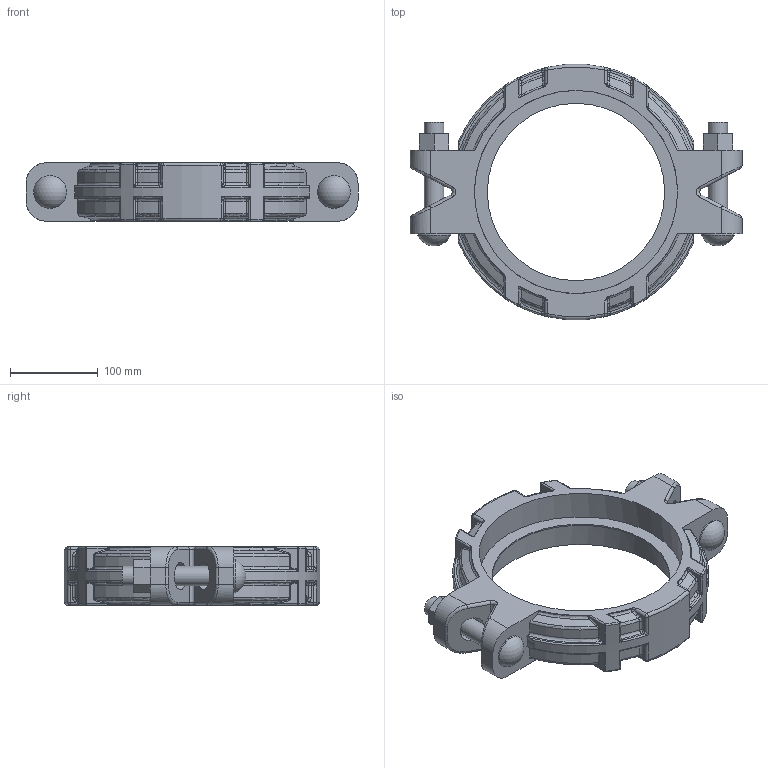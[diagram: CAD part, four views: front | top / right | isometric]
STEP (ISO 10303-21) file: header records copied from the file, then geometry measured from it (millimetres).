
FILE_DESCRIPTION(/* description */ ('VIC COUPLING FLEXIBLE STYLE XL77','CAx-IF Rec.Pracs.---Representation and Presentation of Product Manufacturing Information (PMI)---4.0---2014-10-13'),/* implementation_level */ '2;1');
FILE_NAME(/* name */ 'C:\Users\kkamble\AppData\Roaming\Autodesk\ApplicationPlugins\Back Up\Victaulic_IPS-XL_Coupling Flexible Transition_Style XL77 (XLGxOGS)\Victaulic_IPS-XL_Coupling Flexible Transition_Style XL77 (XLGxOGS)_8 (200).stp',/* time_stamp */ '2020-08-05T13:48:38+05:00',/* author */ ('jheald'),/* organization */ ('Victaulic'),/* preprocessor_version */ 'ST-DEVELOPER v17.2',/* originating_system */ 'Autodesk Inventor 2019',/* authorisation */ '');
FILE_SCHEMA (('AP242_MANAGED_MODEL_BASED_3D_ENGINEERING_MIM_LF { 1 0 10303 442 1 1 4 }'));
Length unit declared in the file: inch
Products named in the file (1): XL77-08.0
Bounding box: 378.87 x 291.25 x 66.84 mm (x, y, z)
Volume: 1998109.5 mm3; surface area: 235722.1 mm2
Topology: 1 solids, 1 shells, 579 faces, 1382 edges, 793 vertices
Faces by surface type: cylinder 173, bspline 168, torus 96, plane 84, sphere 42, cone 16
Full cylindrical faces by diameter (mm): 22.225 x4, 37.694 x2, 202.438 x1, 219.075 x1, 231.775 x1
Entity records: 22393 total; most frequent: CARTESIAN_POINT 9321, ORIENTED_EDGE 2716, DIRECTION 2433, EDGE_CURVE 1358, AXIS2_PLACEMENT_3D 1038, VERTEX_POINT 793, EDGE_LOOP 597, CIRCLE 589
